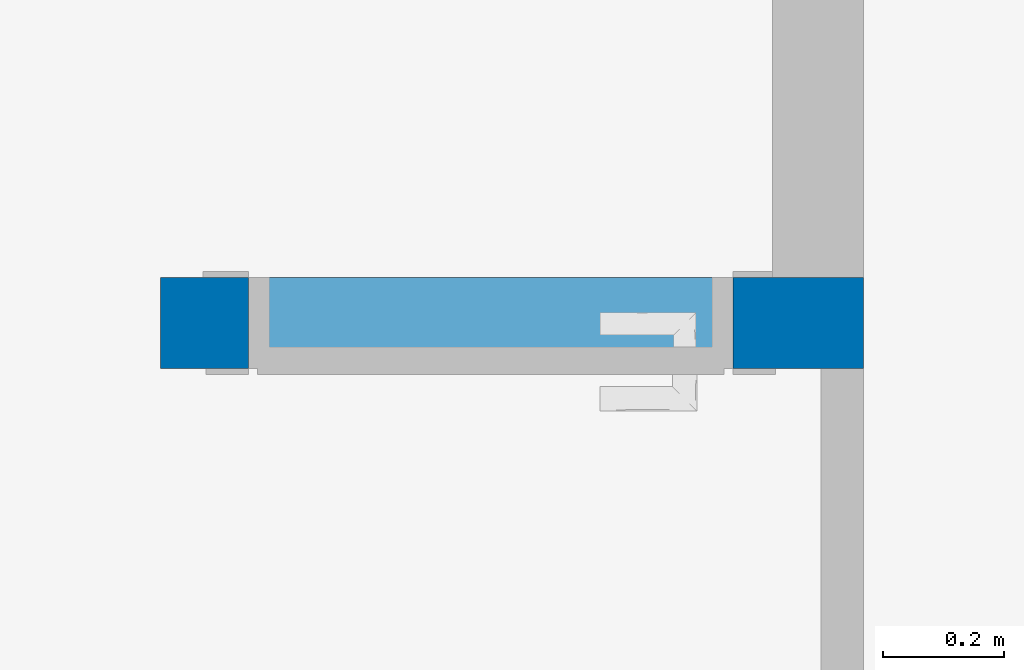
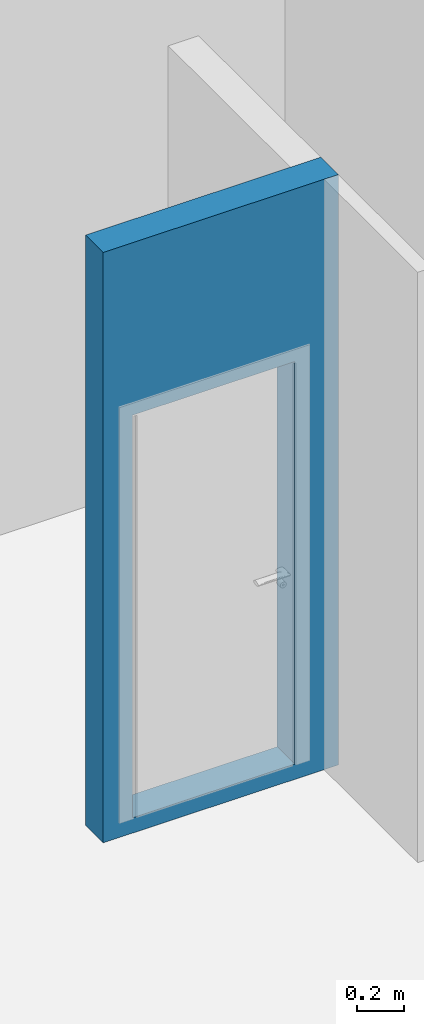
# One storey, part 2 of 11: 1 wall, 1 opening.
"""IFC2X3 building model written with IfcOpenShell, lengths in metres."""

from ifc_helpers import new_model, entity, si_unit, converted_unit, derived_unit, direction, frame, frame_2d, origin, place, context, subcontext, project, spatial, rectangle, extrude, material, layer, layer_set, layer_usage, type_object, element, save


model = new_model("IFC2X3")

# Units and contexts
model_context = context("Model", 3, precision=1e-05, world=origin(), true_north=direction((6.12303176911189e-17, 1.0)))
context_of_model = context(None, 3, precision=1e-05, world=origin(), true_north=direction((6.12303176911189e-17, 1.0)))
body_context = subcontext(model_context, "Body", "Model", "MODEL_VIEW")
ifc_project = project(units=[si_unit("LENGTHUNIT", "METRE"), si_unit("AREAUNIT", "SQUARE_METRE"), si_unit("VOLUMEUNIT", "CUBIC_METRE"), converted_unit("PLANEANGLEUNIT", "DEGREE", entity("IfcRatioMeasure", 0.0174532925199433), si_unit("PLANEANGLEUNIT", "RADIAN"), dimensions=[0, 0, 0, 0, 0, 0, 0]), si_unit("MASSUNIT", "GRAM", prefix="KILO"), si_unit("TIMEUNIT", "SECOND"), si_unit("FREQUENCYUNIT", "HERTZ"), si_unit("THERMODYNAMICTEMPERATUREUNIT", "DEGREE_CELSIUS"), derived_unit("THERMALTRANSMITTANCEUNIT", [(si_unit("MASSUNIT", "GRAM", prefix="KILO"), 1), (si_unit("THERMODYNAMICTEMPERATUREUNIT", "KELVIN"), -1), (si_unit("TIMEUNIT", "SECOND"), -3)]), derived_unit("VOLUMETRICFLOWRATEUNIT", [(si_unit("LENGTHUNIT", "METRE"), 3), (si_unit("TIMEUNIT", "SECOND"), -1)]), si_unit("ELECTRICCURRENTUNIT", "AMPERE"), si_unit("ELECTRICVOLTAGEUNIT", "VOLT"), si_unit("POWERUNIT", "WATT"), si_unit("FORCEUNIT", "NEWTON", prefix="KILO"), si_unit("ILLUMINANCEUNIT", "LUX"), si_unit("LUMINOUSFLUXUNIT", "LUMEN"), si_unit("LUMINOUSINTENSITYUNIT", "CANDELA"), si_unit("PRESSUREUNIT", "PASCAL")], contexts=[model_context, context_of_model])

# Site, building, storey
site_placement = place(None, origin())
site = spatial("IfcSite", under=ifc_project, at=site_placement, Name="Default", CompositionType="ELEMENT")
building_placement = place(site_placement, origin())
building = spatial("IfcBuilding", under=site, at=building_placement, CompositionType="ELEMENT")
storey_placement = place(building_placement, frame((0.0, 0.0, 0.12)))
storey = spatial("IfcBuildingStorey", under=building, at=storey_placement, Name="01.ES.FORJADO PLANTA BAJA", CompositionType="ELEMENT", Elevation=0.12)

# Wall, opening
ifc_material = material(Name="Muro por defecto")
ifc_layer = layer(ifc_material, 0.15)
ifc_layer_set = layer_set([ifc_layer], Name="Muro básico:Por defecto - 15 cm")
ifc_layer_usage = layer_usage(ifc_layer_set, "AXIS2", "POSITIVE", -0.075)
wall_type = type_object("IfcWallType", Name="Muro básico:Por defecto - 15 cm", PredefinedType="STANDARD", material=ifc_layer_set)
wall_placement = place(storey_placement, frame((10.39, 6.52500000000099, 0.0), z_axis=(0.0, 0.0, 1.0), x_axis=(-1.0, 0.0, 0.0)))
wall = element("IfcWallStandardCase", 1, at=wall_placement, inside=storey, type_object=wall_type, material=ifc_layer_usage, Name="Muro básico:Por defecto - 15 cm", ObjectType="Muro básico:Por defecto - 15 cm", context=body_context, shape_type="SweptSolid", body=[
    extrude(rectangle(XDim=1.16000000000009, YDim=0.150000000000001, at=frame_2d((0.580000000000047, 0.0), x_axis=(-1.0, 0.0))), origin(), (0.0, 0.0, 1.0), 3.08),
])
opening_placement = place(wall_placement, frame((0.215000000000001, -0.0750000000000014, 0.0799999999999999)))
element("IfcOpeningElement", 2, at=opening_placement, cuts=wall, Name="Puerta de 1 hoja:80 x 210 cm:1", ObjectType="Opening", context=body_context, shape_type="SweptSolid", body=[
    extrude(rectangle(XDim=2.09999999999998, YDim=0.8, at=frame_2d((1.04999999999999, 0.4), x_axis=(1.0, 0.0))), frame((0.0, 0.0, 0.0), z_axis=(0.0, 1.0, 0.0), x_axis=(0.0, 0.0, 1.0)), (0.0, 0.0, 1.0), 0.15),
])

save(model, "model.ifc")
